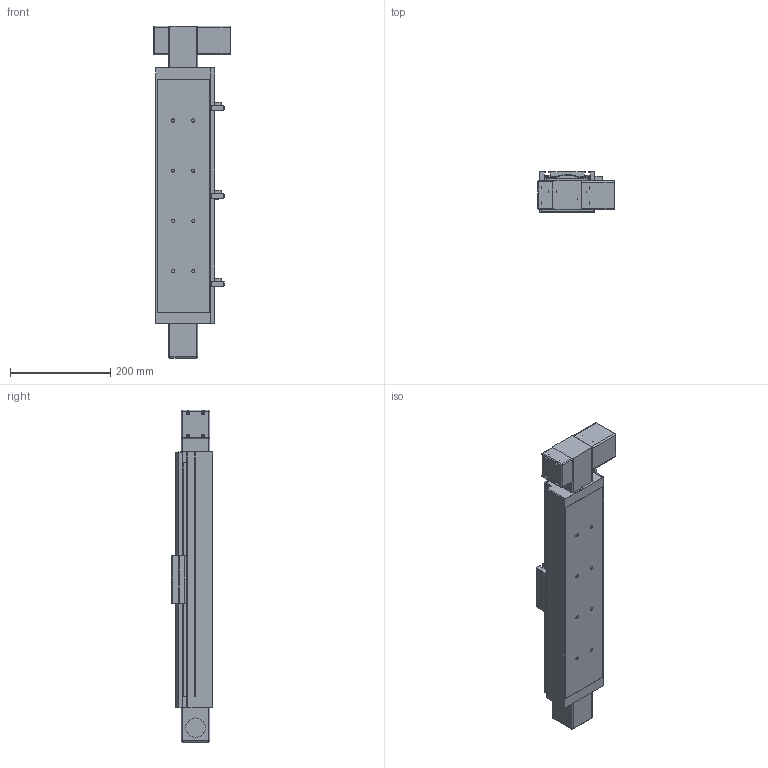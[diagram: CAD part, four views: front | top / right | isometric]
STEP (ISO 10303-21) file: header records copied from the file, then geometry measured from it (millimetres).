
FILE_DESCRIPTION((''),'2;1');
FILE_NAME('E:\uia actuator\UIA actuator 3d- 2015\Belt drive actuator\UIA110BR12(15)DC\UIA110BR12(15)DC-STEP FILE\UIA110BR12(15) stp file 13May16\UIA110BR12(15)DC-350-M23-P13-C10-S.stp','2016-05-13T14:54:21',('h029'),(''),'Autodesk Inventor 11','Autodesk Inventor 11','');
FILE_SCHEMA(('AUTOMOTIVE_DESIGN { 1 0 10303 214 1 1 1 1 }'));
Length unit declared in the file: millimetre
Products named in the file (11): UIA110BR12(15)DC-350; UIA110BR12(15)DC-350-body; UIA110BR12(15)DC-350-Sensor rail; UIA110B-Carriage; UIA110B- Sensor Flag; UIA110B-Cover; SOH-32C; SOH-32C-3; SOH-32C-1; SOH-32C-2; Motor mount
Assembly tree (10 placements, depth 3):
  UIA110BR12(15)DC-350
    UIA110BR12(15)DC-350-body
    UIA110BR12(15)DC-350-Sensor rail
    UIA110B-Carriage
    UIA110B- Sensor Flag
    UIA110B-Cover
    SOH-32C
      SOH-32C-3
      SOH-32C-1
      SOH-32C-2
    Motor mount
Bounding box: 152 x 81 x 661 mm (x, y, z)
Volume: 2349993.4 mm3; surface area: 601656.8 mm2
Topology: 9 solids, 13 shells, 708 faces, 1978 edges, 1276 vertices
Faces by surface type: plane 447, cylinder 171, cone 42, bspline 40, sphere 8
Full cylindrical faces by diameter (mm): 2.459 x4, 3 x2, 3.242 x8, 3.5 x4, 4 x10, 4.5 x4, 4.917 x8, 5 x2, 6.35 x1, 6.5 x8, 7.5 x4, 10 x3, 11 x8, 12 x1, 20 x2, 32 x3, 37 x1, 38.1 x1, 39 x2, 43.5 x1, 46 x2
Entity records: 23098 total; most frequent: CARTESIAN_POINT 5449, DIRECTION 3603, ORIENTED_EDGE 3462, EDGE_CURVE 1731, AXIS2_PLACEMENT_3D 1216, VERTEX_POINT 1192, VECTOR 1171, LINE 1171
